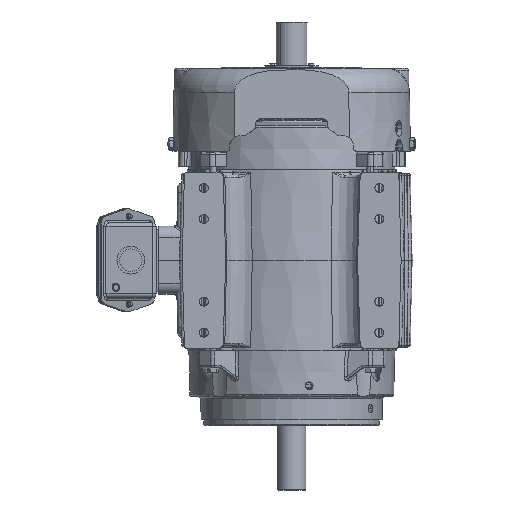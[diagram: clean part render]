
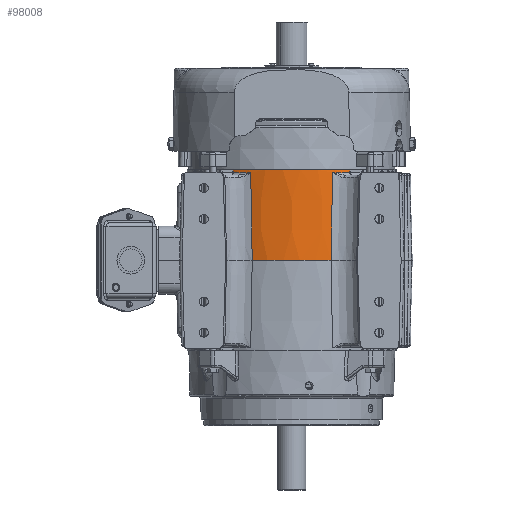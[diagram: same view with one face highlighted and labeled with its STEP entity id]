
A CAD part, front view. The second image highlights one B-rep face of the part: STEP entity #98008.
In plain terms, the highlighted conical face has half-angle 0.404 degrees and reference radius 128.524 mm.
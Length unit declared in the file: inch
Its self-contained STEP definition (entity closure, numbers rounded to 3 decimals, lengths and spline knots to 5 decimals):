
#169 = CARTESIAN_POINT ( 'NONE',  ( -2.82238, -4.2011, -6.74904 ) ) ;
#1553 = VERTEX_POINT ( 'NONE', #98956 ) ;
#2043 = CARTESIAN_POINT ( 'NONE',  ( 1.96682, -4.67043, -7.67255 ) ) ;
#7745 = VERTEX_POINT ( 'NONE', #41360 ) ;
#10301 = CARTESIAN_POINT ( 'NONE',  ( -1.90877, -4.72045, -11.08905 ) ) ;
#11965 = CARTESIAN_POINT ( 'NONE',  ( -2.82318, -4.2011, -6.81276 ) ) ;
#12076 = CARTESIAN_POINT ( 'NONE',  ( 2.82324, -4.2011, -6.81758 ) ) ;
#13475 = DIRECTION ( 'NONE',  ( 0., 0., -1. ) ) ;
#13730 = CARTESIAN_POINT ( 'NONE',  ( -1.95625, -4.67964, -8.29705 ) ) ;
#14235 = CARTESIAN_POINT ( 'NONE',  ( -1.97943, -4.65934, -6.92433 ) ) ;
#14897 = EDGE_CURVE ( 'NONE', #7745, #132791, #16261, .T. ) ;
#15329 = CARTESIAN_POINT ( 'NONE',  ( 0., 0., -6.8449 ) ) ;
#15723 = VERTEX_POINT ( 'NONE', #44839 ) ;
#15735 = CARTESIAN_POINT ( 'NONE',  ( -1.92087, -4.71016, -10.38055 ) ) ;
#16261 = B_SPLINE_CURVE_WITH_KNOTS ( 'NONE', 3,
 ( #62560, #86214, #14235, #98092, #96016, #13730, #37421, #49229, #15735, #131521 ),
 .UNSPECIFIED., .F., .F.,
 ( 4, 3, 3, 4 ),
 ( -0.00303, 0., 0.0508, 0.1048 ),
 .UNSPECIFIED. ) ;
#18381 = EDGE_CURVE ( 'NONE', #1553, #95520, #64531, .T. ) ;
#18934 = ORIENTED_EDGE ( 'NONE', *, *, #92401, .T. ) ;
#18994 = EDGE_CURVE ( 'NONE', #104882, #132100, #73065, .T. ) ;
#24444 = ORIENTED_EDGE ( 'NONE', *, *, #28019, .T. ) ;
#24677 = CARTESIAN_POINT ( 'NONE',  ( 1.94281, -4.69127, -9.08955 ) ) ;
#25744 = EDGE_CURVE ( 'NONE', #15723, #69913, #31644, .T. ) ;
#26441 = CONICAL_SURFACE ( 'NONE', #30316, 5.06, 0.007 ) ;
#27191 = DIRECTION ( 'NONE',  ( 1., 0., 0. ) ) ;
#28019 = EDGE_CURVE ( 'NONE', #90213, #80397, #100165, .T. ) ;
#30316 = AXIS2_PLACEMENT_3D ( 'NONE', #46665, #70791, #118136 ) ;
#30622 = AXIS2_PLACEMENT_3D ( 'NONE', #106603, #13475, #142054 ) ;
#31644 = B_SPLINE_CURVE_WITH_KNOTS ( 'NONE', 3,
 ( #112915, #46995, #129288, #33710 ),
 .UNSPECIFIED., .F., .F.,
 ( 4, 4 ),
 ( 0., 0.00001 ),
 .UNSPECIFIED. ) ;
#33710 = CARTESIAN_POINT ( 'NONE',  ( 2.82358, -4.2011, -6.84461 ) ) ;
#34174 = DIRECTION ( 'NONE',  ( 0., 0., 1. ) ) ;
#35272 = ORIENTED_EDGE ( 'NONE', *, *, #56188, .T. ) ;
#35779 = CARTESIAN_POINT ( 'NONE',  ( 2.82231, -4.2011, -6.74389 ) ) ;
#36007 = CARTESIAN_POINT ( 'NONE',  ( 1.97943, -4.65934, -6.92433 ) ) ;
#36977 = CARTESIAN_POINT ( 'NONE',  ( -2.82194, -4.20109, -6.7138 ) ) ;
#37421 = CARTESIAN_POINT ( 'NONE',  ( -1.94495, -4.68942, -8.96355 ) ) ;
#38123 = CARTESIAN_POINT ( 'NONE',  ( 2.82358, -4.2011, -6.84461 ) ) ;
#39280 = DIRECTION ( 'NONE',  ( 0., 0., -1. ) ) ;
#41360 = CARTESIAN_POINT ( 'NONE',  ( -1.98076, -4.65816, -6.8449 ) ) ;
#43254 = CARTESIAN_POINT ( 'NONE',  ( 1.90877, -4.72045, -11.08905 ) ) ;
#44839 = CARTESIAN_POINT ( 'NONE',  ( 2.82358, -4.20111, -6.8449 ) ) ;
#45938 = CARTESIAN_POINT ( 'NONE',  ( -2.82194, -4.20109, -6.7138 ) ) ;
#46665 = CARTESIAN_POINT ( 'NONE',  ( 0., 0., -6.58905 ) ) ;
#46995 = CARTESIAN_POINT ( 'NONE',  ( 2.82358, -4.20111, -6.8448 ) ) ;
#47798 = CARTESIAN_POINT ( 'NONE',  ( 1.90877, -4.72045, -11.08905 ) ) ;
#48333 = CARTESIAN_POINT ( 'NONE',  ( -2.82358, -4.20111, -6.8449 ) ) ;
#49229 = CARTESIAN_POINT ( 'NONE',  ( -1.93293, -4.69982, -9.67205 ) ) ;
#49528 = ORIENTED_EDGE ( 'NONE', *, *, #152510, .T. ) ;
#56188 = EDGE_CURVE ( 'NONE', #132100, #1553, #62047, .T. ) ;
#56363 = ORIENTED_EDGE ( 'NONE', *, *, #25744, .T. ) ;
#57842 = CARTESIAN_POINT ( 'NONE',  ( -2.82278, -4.2011, -6.7809 ) ) ;
#60674 = CARTESIAN_POINT ( 'NONE',  ( 1.9315, -4.70105, -9.75605 ) ) ;
#61380 = EDGE_LOOP ( 'NONE', ( #18934, #78609, #35272, #111189, #49528, #149253, #112206, #24444, #67740, #56363 ) ) ;
#62047 = B_SPLINE_CURVE_WITH_KNOTS ( 'NONE', 3,
 ( #45938, #128227, #82914, #169, #57842, #11965, #69566 ),
 .UNSPECIFIED., .F., .F.,
 ( 4, 3, 4 ),
 ( 0.00317, 0.00406, 0.00649 ),
 .UNSPECIFIED. ) ;
#62560 = CARTESIAN_POINT ( 'NONE',  ( -1.98076, -4.65816, -6.8449 ) ) ;
#64531 = B_SPLINE_CURVE_WITH_KNOTS ( 'NONE', 3,
 ( #71403, #118252, #131112, #48333 ),
 .UNSPECIFIED., .F., .F.,
 ( 4, 4 ),
 ( 0., 0.00001 ),
 .UNSPECIFIED. ) ;
#67740 = ORIENTED_EDGE ( 'NONE', *, *, #72591, .T. ) ;
#69566 = CARTESIAN_POINT ( 'NONE',  ( -2.82358, -4.2011, -6.84461 ) ) ;
#69818 = B_SPLINE_CURVE_WITH_KNOTS ( 'NONE', 3,
 ( #129833, #83560, #12076, #94866, #83049, #35779, #118028 ),
 .UNSPECIFIED., .F., .F.,
 ( 4, 3, 4 ),
 ( 0.00303, 0.00406, 0.00636 ),
 .UNSPECIFIED. ) ;
#69913 = VERTEX_POINT ( 'NONE', #38123 ) ;
#70791 = DIRECTION ( 'NONE',  ( 0., 0., -1. ) ) ;
#71403 = CARTESIAN_POINT ( 'NONE',  ( -2.82358, -4.2011, -6.84461 ) ) ;
#72591 = EDGE_CURVE ( 'NONE', #80397, #15723, #130881, .T. ) ;
#73065 = CIRCLE ( 'NONE', #30622, 5.06088 ) ;
#73707 = CARTESIAN_POINT ( 'NONE',  ( 0., 0., -11.08905 ) ) ;
#76530 = AXIS2_PLACEMENT_3D ( 'NONE', #104652, #34174, #81447 ) ;
#78609 = ORIENTED_EDGE ( 'NONE', *, *, #18994, .T. ) ;
#80397 = VERTEX_POINT ( 'NONE', #111078 ) ;
#81447 = DIRECTION ( 'NONE',  ( 1., 0., 0. ) ) ;
#81592 = FACE_OUTER_BOUND ( 'NONE', #61380, .T. ) ;
#82914 = CARTESIAN_POINT ( 'NONE',  ( -2.82223, -4.20109, -6.73729 ) ) ;
#83049 = CARTESIAN_POINT ( 'NONE',  ( 2.82269, -4.2011, -6.77398 ) ) ;
#83560 = CARTESIAN_POINT ( 'NONE',  ( 2.82341, -4.2011, -6.8311 ) ) ;
#84147 = CIRCLE ( 'NONE', #76530, 5.06181 ) ;
#86214 = CARTESIAN_POINT ( 'NONE',  ( -1.9801, -4.65875, -6.88461 ) ) ;
#86359 = EDGE_CURVE ( 'NONE', #90213, #132791, #128183, .T. ) ;
#90213 = VERTEX_POINT ( 'NONE', #43254 ) ;
#92401 = EDGE_CURVE ( 'NONE', #69913, #104882, #69818, .T. ) ;
#94866 = CARTESIAN_POINT ( 'NONE',  ( 2.82307, -4.2011, -6.80406 ) ) ;
#95520 = VERTEX_POINT ( 'NONE', #127059 ) ;
#96016 = CARTESIAN_POINT ( 'NONE',  ( -1.96752, -4.66981, -7.63055 ) ) ;
#96120 = CARTESIAN_POINT ( 'NONE',  ( 1.9801, -4.65875, -6.88461 ) ) ;
#97655 = DIRECTION ( 'NONE',  ( 0., 0., 1. ) ) ;
#98008 = ADVANCED_FACE ( 'NONE', ( #81592 ), #26441, .T. ) ;
#98092 = CARTESIAN_POINT ( 'NONE',  ( -1.97876, -4.65993, -6.96405 ) ) ;
#98956 = CARTESIAN_POINT ( 'NONE',  ( -2.82358, -4.2011, -6.84461 ) ) ;
#100165 = B_SPLINE_CURVE_WITH_KNOTS ( 'NONE', 3,
 ( #47798, #129561, #60674, #24677, #142920, #2043, #131115, #36007, #96120, #130593 ),
 .UNSPECIFIED., .F., .F.,
 ( 4, 3, 3, 4 ),
 ( 0., 0.0508, 0.1048, 0.10783 ),
 .UNSPECIFIED. ) ;
#100243 = CARTESIAN_POINT ( 'NONE',  ( 2.82194, -4.20109, -6.7138 ) ) ;
#104652 = CARTESIAN_POINT ( 'NONE',  ( 0., 0., -6.8449 ) ) ;
#104882 = VERTEX_POINT ( 'NONE', #100243 ) ;
#106603 = CARTESIAN_POINT ( 'NONE',  ( 0., 0., -6.7138 ) ) ;
#111078 = CARTESIAN_POINT ( 'NONE',  ( 1.98076, -4.65816, -6.8449 ) ) ;
#111189 = ORIENTED_EDGE ( 'NONE', *, *, #18381, .T. ) ;
#112206 = ORIENTED_EDGE ( 'NONE', *, *, #86359, .F. ) ;
#112915 = CARTESIAN_POINT ( 'NONE',  ( 2.82358, -4.20111, -6.8449 ) ) ;
#118028 = CARTESIAN_POINT ( 'NONE',  ( 2.82194, -4.20109, -6.7138 ) ) ;
#118136 = DIRECTION ( 'NONE',  ( -1., 0., 0. ) ) ;
#118252 = CARTESIAN_POINT ( 'NONE',  ( -2.82358, -4.2011, -6.84471 ) ) ;
#121068 = AXIS2_PLACEMENT_3D ( 'NONE', #15329, #97655, #27191 ) ;
#127059 = CARTESIAN_POINT ( 'NONE',  ( -2.82358, -4.20111, -6.8449 ) ) ;
#128183 = CIRCLE ( 'NONE', #133736, 5.09176 ) ;
#128227 = CARTESIAN_POINT ( 'NONE',  ( -2.82208, -4.20109, -6.72555 ) ) ;
#129288 = CARTESIAN_POINT ( 'NONE',  ( 2.82358, -4.2011, -6.84471 ) ) ;
#129561 = CARTESIAN_POINT ( 'NONE',  ( 1.92016, -4.71077, -10.42255 ) ) ;
#129833 = CARTESIAN_POINT ( 'NONE',  ( 2.82358, -4.2011, -6.84461 ) ) ;
#130593 = CARTESIAN_POINT ( 'NONE',  ( 1.98076, -4.65816, -6.8449 ) ) ;
#130881 = CIRCLE ( 'NONE', #121068, 5.06181 ) ;
#131112 = CARTESIAN_POINT ( 'NONE',  ( -2.82358, -4.20111, -6.8448 ) ) ;
#131115 = CARTESIAN_POINT ( 'NONE',  ( 1.97876, -4.65993, -6.96405 ) ) ;
#131521 = CARTESIAN_POINT ( 'NONE',  ( -1.90877, -4.72045, -11.08905 ) ) ;
#132100 = VERTEX_POINT ( 'NONE', #36977 ) ;
#132378 = DIRECTION ( 'NONE',  ( -1., 0., 0. ) ) ;
#132791 = VERTEX_POINT ( 'NONE', #10301 ) ;
#133736 = AXIS2_PLACEMENT_3D ( 'NONE', #73707, #39280, #132378 ) ;
#142054 = DIRECTION ( 'NONE',  ( 0., -1., 0. ) ) ;
#142920 = CARTESIAN_POINT ( 'NONE',  ( 1.95483, -4.68088, -8.38105 ) ) ;
#149253 = ORIENTED_EDGE ( 'NONE', *, *, #14897, .T. ) ;
#152510 = EDGE_CURVE ( 'NONE', #95520, #7745, #84147, .T. ) ;
